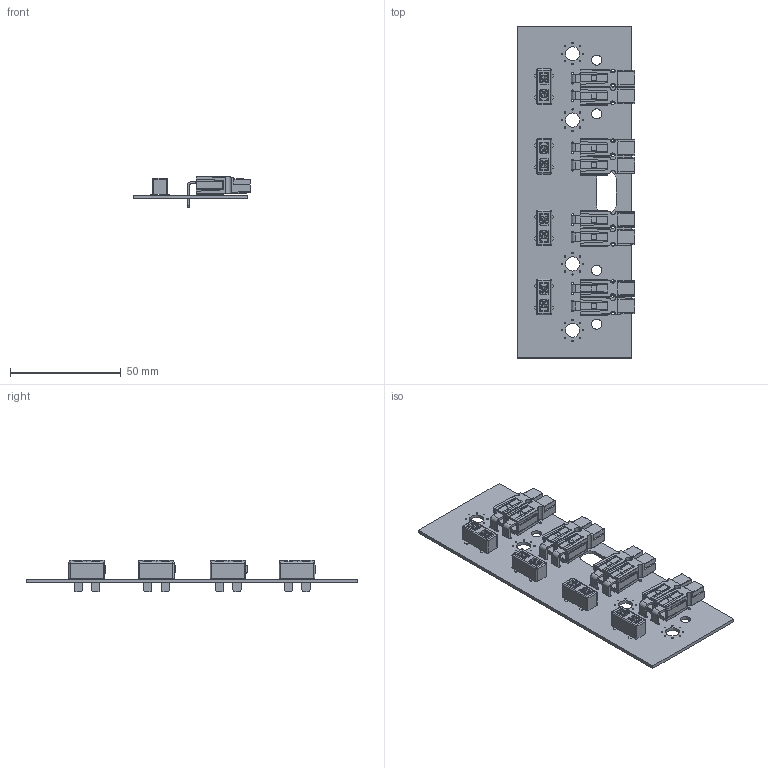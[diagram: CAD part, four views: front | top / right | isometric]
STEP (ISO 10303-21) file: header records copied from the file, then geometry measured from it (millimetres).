
FILE_DESCRIPTION(('KiCad electronic assembly'),'2;1');
FILE_NAME('209_AddOn_PowerPole.step','2026-01-24T20:21:14',('Pcbnew'),( 'Kicad'),'Open CASCADE STEP processor 7.9','KiCad to STEP converter' ,'Unknown');
FILE_SCHEMA(('AUTOMOTIVE_DESIGN { 1 0 10303 214 1 1 1 1 }'));
Length unit declared in the file: millimetre
Products named in the file (4): 209_AddOn_PowerPole 1; 3588; ASMPR45-1X2-RK; 209_AddOn_PowerPole_PCB
Assembly tree (9 placements, depth 2):
  209_AddOn_PowerPole 1
    3588  x4
    ASMPR45-1X2-RK  x4
    209_AddOn_PowerPole_PCB
Bounding box: 53.1 x 150 x 14.1 mm (x, y, z)
Volume: 21438.7 mm3; surface area: 33420.8 mm2
Topology: 37 solids, 37 shells, 2836 faces, 7214 edges, 4428 vertices
Faces by surface type: plane 2040, cylinder 692, bspline 88, sphere 16
Full cylindrical faces by diameter (mm): 0.6 x32, 1.2 x10, 4.57 x4, 6.4 x4
Entity records: 26169 total; most frequent: CARTESIAN_POINT 5048, ORIENTED_EDGE 3988, DIRECTION 3798, EDGE_CURVE 1994, LINE 1518, VECTOR 1518, VERTEX_POINT 1242, AXIS2_PLACEMENT_3D 1140
